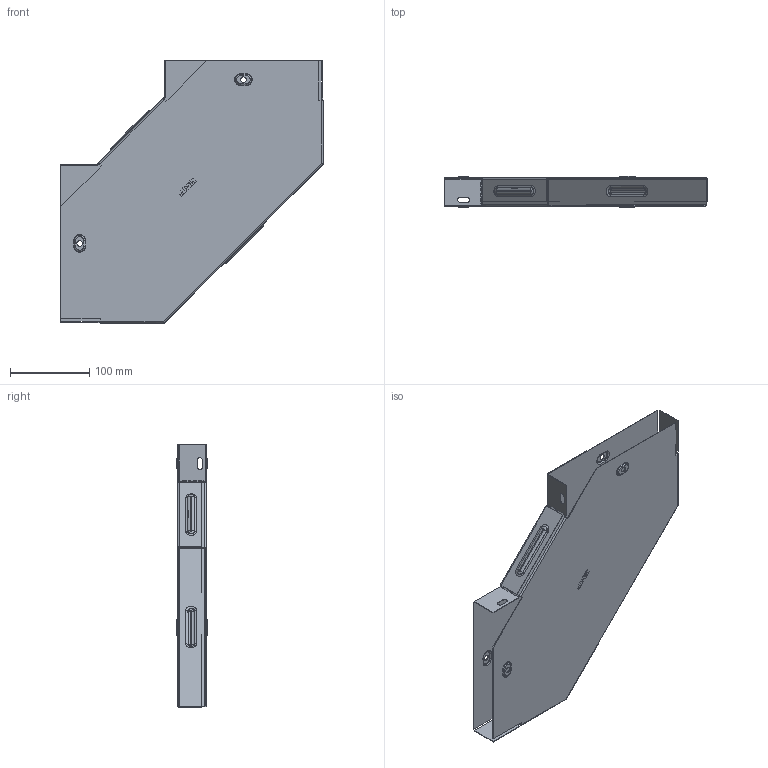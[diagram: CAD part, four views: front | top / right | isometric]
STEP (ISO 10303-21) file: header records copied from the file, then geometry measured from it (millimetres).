
FILE_DESCRIPTION (( 'STEP AP214' ), '1' );
FILE_NAME ('g9035200_捘.STEP', '2019-06-10T09:49:35', ( '砐錪賧瘔蠈錪 Windows' ), ( '' ), 'SwSTEP 2.0', 'SolidWorks 2018', '' );
FILE_SCHEMA (( 'AUTOMOTIVE_DESIGN' ));
Length unit declared in the file: millimetre
Products named in the file (1): g9035200_捘
Bounding box: 330.8 x 38.8 x 330.8 mm (x, y, z)
Volume: 150181.1 mm3; surface area: 378349.5 mm2
Topology: 2 solids, 2 shells, 485 faces, 1287 edges, 826 vertices
Faces by surface type: plane 272, cylinder 123, torus 64, bspline 26
Entity records: 16296 total; most frequent: CARTESIAN_POINT 4075, ORIENTED_EDGE 2574, DIRECTION 2469, EDGE_CURVE 1287, VECTOR 897, LINE 897, VERTEX_POINT 826, AXIS2_PLACEMENT_3D 786
